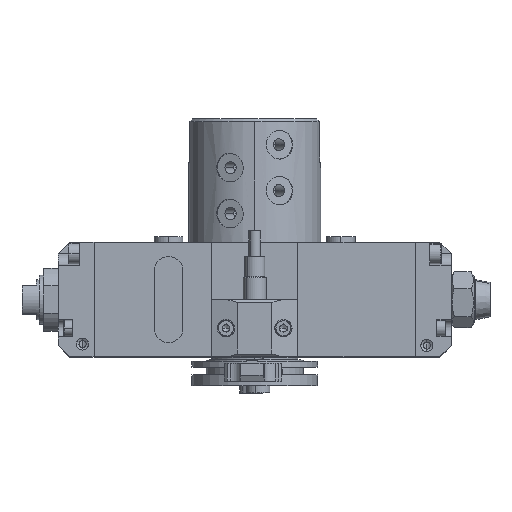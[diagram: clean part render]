
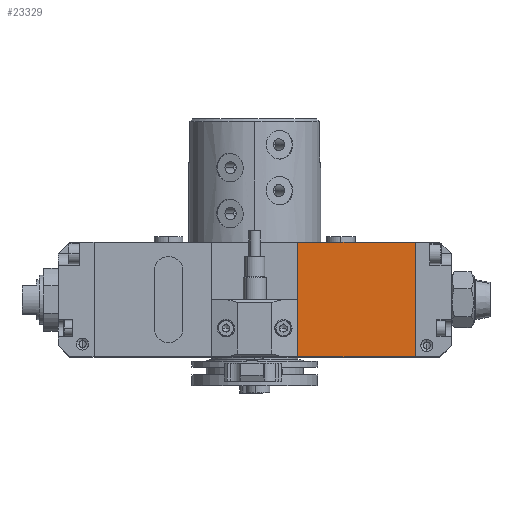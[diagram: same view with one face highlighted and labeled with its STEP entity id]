
A CAD part, top view. The second image highlights one B-rep face of the part: STEP entity #23329.
In plain terms, the highlighted planar face has unit normal (0, 0, 1).
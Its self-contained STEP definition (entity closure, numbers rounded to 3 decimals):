
#2511 = LINE ( 'NONE', #32495, #32402 ) ;
#5801 = EDGE_LOOP ( 'NONE', ( #23586, #67450, #43796, #17063 ) ) ;
#6126 = LINE ( 'NONE', #48550, #19257 ) ;
#6151 = VERTEX_POINT ( 'NONE', #61516 ) ;
#8974 = PLANE ( 'NONE',  #15683 ) ;
#9140 = DIRECTION ( 'NONE',  ( 0., -1., 0. ) ) ;
#11308 = VERTEX_POINT ( 'NONE', #61783 ) ;
#13234 = DIRECTION ( 'NONE',  ( -1., 0., 0. ) ) ;
#14800 = DIRECTION ( 'NONE',  ( 0., 1., 0. ) ) ;
#15683 = AXIS2_PLACEMENT_3D ( 'NONE', #54297, #20493, #59973 ) ;
#17063 = ORIENTED_EDGE ( 'NONE', *, *, #68232, .T. ) ;
#19257 = VECTOR ( 'NONE', #14800, 1000. ) ;
#20493 = DIRECTION ( 'NONE',  ( 0., 0., 1. ) ) ;
#22403 = EDGE_CURVE ( 'NONE', #24357, #6151, #56832, .T. ) ;
#23329 = ADVANCED_FACE ( 'NONE', ( #44092 ), #8974, .T. ) ;
#23586 = ORIENTED_EDGE ( 'NONE', *, *, #53645, .F. ) ;
#24357 = VERTEX_POINT ( 'NONE', #35770 ) ;
#26948 = LINE ( 'NONE', #64269, #57006 ) ;
#32313 = EDGE_CURVE ( 'NONE', #6151, #62210, #2511, .T. ) ;
#32402 = VECTOR ( 'NONE', #71961, 1000. ) ;
#32495 = CARTESIAN_POINT ( 'NONE',  ( 56., -40., 37. ) ) ;
#35770 = CARTESIAN_POINT ( 'NONE',  ( 56., 0., 37. ) ) ;
#42868 = CARTESIAN_POINT ( 'NONE',  ( 56., 0., 37. ) ) ;
#43796 = ORIENTED_EDGE ( 'NONE', *, *, #22403, .F. ) ;
#44092 = FACE_OUTER_BOUND ( 'NONE', #5801, .T. ) ;
#48550 = CARTESIAN_POINT ( 'NONE',  ( 15., -40., 37. ) ) ;
#50378 = CARTESIAN_POINT ( 'NONE',  ( 15., -40., 37. ) ) ;
#53645 = EDGE_CURVE ( 'NONE', #62210, #11308, #6126, .T. ) ;
#54297 = CARTESIAN_POINT ( 'NONE',  ( 56., 0., 37. ) ) ;
#56832 = LINE ( 'NONE', #42868, #70079 ) ;
#57006 = VECTOR ( 'NONE', #13234, 1000. ) ;
#59973 = DIRECTION ( 'NONE',  ( 1., 0., 0. ) ) ;
#61516 = CARTESIAN_POINT ( 'NONE',  ( 56., -40., 37. ) ) ;
#61783 = CARTESIAN_POINT ( 'NONE',  ( 15., 0., 37. ) ) ;
#62210 = VERTEX_POINT ( 'NONE', #50378 ) ;
#64269 = CARTESIAN_POINT ( 'NONE',  ( 56., 0., 37. ) ) ;
#67450 = ORIENTED_EDGE ( 'NONE', *, *, #32313, .F. ) ;
#68232 = EDGE_CURVE ( 'NONE', #24357, #11308, #26948, .T. ) ;
#70079 = VECTOR ( 'NONE', #9140, 1000. ) ;
#71961 = DIRECTION ( 'NONE',  ( -1., 0., 0. ) ) ;
